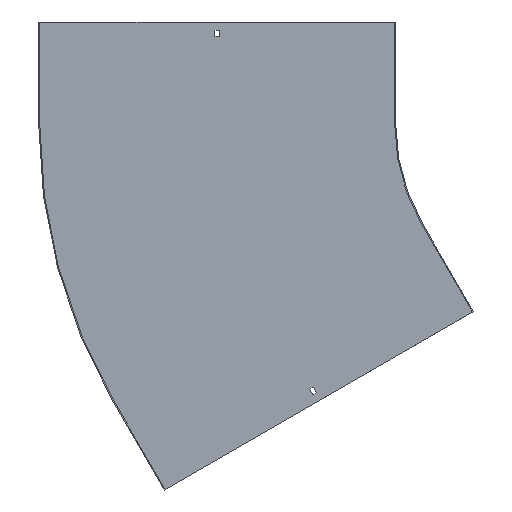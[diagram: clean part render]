
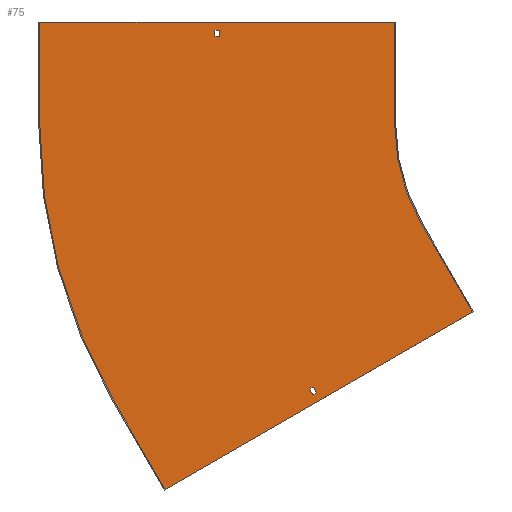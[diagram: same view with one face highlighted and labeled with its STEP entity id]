
A CAD part, front view. The second image highlights one B-rep face of the part: STEP entity #75.
In plain terms, the highlighted planar face has unit normal (0, -1, 0).
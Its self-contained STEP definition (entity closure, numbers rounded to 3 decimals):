
#1 = DIRECTION ( 'NONE',  ( 0., 0., 1. ) ) ;
#12 = EDGE_CURVE ( 'NONE', #556, #187, #514, .T. ) ;
#15 = VERTEX_POINT ( 'NONE', #708 ) ;
#16 = LINE ( 'NONE', #346, #610 ) ;
#24 = LINE ( 'NONE', #99, #457 ) ;
#27 = DIRECTION ( 'NONE',  ( 0., 0., -1. ) ) ;
#33 = CARTESIAN_POINT ( 'NONE',  ( -408.999, -1.5, -385.092 ) ) ;
#36 = DIRECTION ( 'NONE',  ( 0., 1., 0. ) ) ;
#67 = DIRECTION ( 'NONE',  ( 0., 0., -1. ) ) ;
#75 = ADVANCED_FACE ( 'NONE', ( #793, #394, #858 ), #386, .T. ) ;
#83 = CARTESIAN_POINT ( 'NONE',  ( -290., -1.5, 0. ) ) ;
#84 = LINE ( 'NONE', #347, #468 ) ;
#85 = ORIENTED_EDGE ( 'NONE', *, *, #387, .T. ) ;
#86 = ORIENTED_EDGE ( 'NONE', *, *, #801, .F. ) ;
#95 = AXIS2_PLACEMENT_3D ( 'NONE', #195, #660, #67 ) ;
#99 = CARTESIAN_POINT ( 'NONE',  ( 0., -1.5, 129. ) ) ;
#138 = CARTESIAN_POINT ( 'NONE',  ( -546.75, -1.5, 138. ) ) ;
#144 = VERTEX_POINT ( 'NONE', #526 ) ;
#145 = CARTESIAN_POINT ( 'NONE',  ( -553.25, -1.5, 0. ) ) ;
#149 = EDGE_CURVE ( 'NONE', #547, #279, #402, .T. ) ;
#152 = VERTEX_POINT ( 'NONE', #450 ) ;
#155 = CARTESIAN_POINT ( 'NONE',  ( -174.848, -1.5, -274.154 ) ) ;
#159 = EDGE_CURVE ( 'NONE', #335, #409, #596, .T. ) ;
#161 = EDGE_CURVE ( 'NONE', #275, #392, #648, .T. ) ;
#163 = ORIENTED_EDGE ( 'NONE', *, *, #254, .F. ) ;
#179 = VECTOR ( 'NONE', #857, 1000. ) ;
#186 = CARTESIAN_POINT ( 'NONE',  ( -546.75, -1.5, 129. ) ) ;
#187 = VERTEX_POINT ( 'NONE', #186 ) ;
#192 = ORIENTED_EDGE ( 'NONE', *, *, #578, .F. ) ;
#195 = CARTESIAN_POINT ( 'NONE',  ( 0., -1.5, 0. ) ) ;
#213 = EDGE_CURVE ( 'NONE', #409, #657, #807, .T. ) ;
#214 = LINE ( 'NONE', #743, #538 ) ;
#222 = EDGE_LOOP ( 'NONE', ( #388, #770, #426, #239 ) ) ;
#226 = LINE ( 'NONE', #237, #829 ) ;
#237 = CARTESIAN_POINT ( 'NONE',  ( 0., -1.5, 138. ) ) ;
#239 = ORIENTED_EDGE ( 'NONE', *, *, #535, .F. ) ;
#241 = DIRECTION ( 'NONE',  ( -1., 0., 0. ) ) ;
#242 = DIRECTION ( 'NONE',  ( 0., 0., -1. ) ) ;
#254 = EDGE_CURVE ( 'NONE', #575, #335, #742, .T. ) ;
#255 = CARTESIAN_POINT ( 'NONE',  ( -810., -1.5, 0. ) ) ;
#269 = DIRECTION ( 'NONE',  ( 0.866, 0., 0.5 ) ) ;
#273 = DIRECTION ( 'NONE',  ( -0.866, 0., -0.5 ) ) ;
#275 = VERTEX_POINT ( 'NONE', #539 ) ;
#279 = VERTEX_POINT ( 'NONE', #802 ) ;
#283 = ORIENTED_EDGE ( 'NONE', *, *, #498, .F. ) ;
#284 = DIRECTION ( 'NONE',  ( 0., 0., -1. ) ) ;
#286 = EDGE_CURVE ( 'NONE', #279, #275, #84, .T. ) ;
#326 = LINE ( 'NONE', #595, #179 ) ;
#328 = DIRECTION ( 'NONE',  ( 0., 0., 1. ) ) ;
#329 = VECTOR ( 'NONE', #328, 1000. ) ;
#331 = DIRECTION ( 'NONE',  ( 0.5, 0., -0.866 ) ) ;
#335 = VERTEX_POINT ( 'NONE', #558 ) ;
#342 = CARTESIAN_POINT ( 'NONE',  ( 0., -1.5, 0. ) ) ;
#346 = CARTESIAN_POINT ( 'NONE',  ( -290., -1.5, 150. ) ) ;
#347 = CARTESIAN_POINT ( 'NONE',  ( 69., -1.5, -119.512 ) ) ;
#367 = EDGE_LOOP ( 'NONE', ( #849, #283, #86, #645, #678, #446, #163, #192 ) ) ;
#372 = VECTOR ( 'NONE', #242, 1000. ) ;
#386 = PLANE ( 'NONE',  #95 ) ;
#387 = EDGE_CURVE ( 'NONE', #722, #556, #226, .T. ) ;
#388 = ORIENTED_EDGE ( 'NONE', *, *, #161, .F. ) ;
#392 = VERTEX_POINT ( 'NONE', #33 ) ;
#394 = FACE_OUTER_BOUND ( 'NONE', #367, .T. ) ;
#397 = EDGE_CURVE ( 'NONE', #657, #520, #705, .T. ) ;
#399 = CARTESIAN_POINT ( 'NONE',  ( -626.481, -1.5, -534.904 ) ) ;
#402 = LINE ( 'NONE', #862, #688 ) ;
#409 = VERTEX_POINT ( 'NONE', #755 ) ;
#426 = ORIENTED_EDGE ( 'NONE', *, *, #149, .F. ) ;
#432 = EDGE_CURVE ( 'NONE', #187, #144, #24, .T. ) ;
#444 = EDGE_LOOP ( 'NONE', ( #85, #534, #447, #633 ) ) ;
#446 = ORIENTED_EDGE ( 'NONE', *, *, #159, .F. ) ;
#447 = ORIENTED_EDGE ( 'NONE', *, *, #432, .T. ) ;
#450 = CARTESIAN_POINT ( 'NONE',  ( -290., -1.5, 150. ) ) ;
#454 = VECTOR ( 'NONE', #856, 1000. ) ;
#457 = VECTOR ( 'NONE', #241, 1000. ) ;
#459 = CARTESIAN_POINT ( 'NONE',  ( -701.481, -1.5, -405. ) ) ;
#468 = VECTOR ( 'NONE', #269, 1000. ) ;
#476 = DIRECTION ( 'NONE',  ( 0., 0., -1. ) ) ;
#482 = DIRECTION ( 'NONE',  ( 0., -1., 0. ) ) ;
#492 = CARTESIAN_POINT ( 'NONE',  ( -626.481, -1.5, -534.904 ) ) ;
#498 = EDGE_CURVE ( 'NONE', #781, #15, #586, .T. ) ;
#514 = LINE ( 'NONE', #691, #372 ) ;
#520 = VERTEX_POINT ( 'NONE', #459 ) ;
#526 = CARTESIAN_POINT ( 'NONE',  ( -553.25, -1.5, 129. ) ) ;
#527 = VECTOR ( 'NONE', #700, 1000. ) ;
#534 = ORIENTED_EDGE ( 'NONE', *, *, #12, .T. ) ;
#535 = EDGE_CURVE ( 'NONE', #392, #547, #326, .T. ) ;
#536 = DIRECTION ( 'NONE',  ( 1., 0., 0. ) ) ;
#538 = VECTOR ( 'NONE', #536, 1000. ) ;
#539 = CARTESIAN_POINT ( 'NONE',  ( -404.499, -1.5, -392.887 ) ) ;
#547 = VERTEX_POINT ( 'NONE', #581 ) ;
#556 = VERTEX_POINT ( 'NONE', #138 ) ;
#558 = CARTESIAN_POINT ( 'NONE',  ( -251.147, -1.5, -145. ) ) ;
#569 = VECTOR ( 'NONE', #1, 1000. ) ;
#575 = VERTEX_POINT ( 'NONE', #83 ) ;
#578 = EDGE_CURVE ( 'NONE', #152, #575, #16, .T. ) ;
#581 = CARTESIAN_POINT ( 'NONE',  ( -414.629, -1.5, -388.342 ) ) ;
#582 = DIRECTION ( 'NONE',  ( 0.5, 0., -0.866 ) ) ;
#586 = LINE ( 'NONE', #255, #329 ) ;
#595 = CARTESIAN_POINT ( 'NONE',  ( 64.5, -1.5, -111.717 ) ) ;
#596 = LINE ( 'NONE', #725, #623 ) ;
#598 = AXIS2_PLACEMENT_3D ( 'NONE', #634, #36, #27 ) ;
#600 = CARTESIAN_POINT ( 'NONE',  ( -473.499, -1.5, -273.375 ) ) ;
#610 = VECTOR ( 'NONE', #284, 1000. ) ;
#623 = VECTOR ( 'NONE', #331, 1000. ) ;
#633 = ORIENTED_EDGE ( 'NONE', *, *, #659, .T. ) ;
#634 = CARTESIAN_POINT ( 'NONE',  ( 0., -1.5, 0. ) ) ;
#636 = VECTOR ( 'NONE', #273, 1000. ) ;
#645 = ORIENTED_EDGE ( 'NONE', *, *, #397, .F. ) ;
#648 = LINE ( 'NONE', #600, #454 ) ;
#652 = CIRCLE ( 'NONE', #598, 810. ) ;
#657 = VERTEX_POINT ( 'NONE', #399 ) ;
#659 = EDGE_CURVE ( 'NONE', #144, #722, #739, .T. ) ;
#660 = DIRECTION ( 'NONE',  ( 0., -1., 0. ) ) ;
#673 = EDGE_CURVE ( 'NONE', #15, #152, #214, .T. ) ;
#678 = ORIENTED_EDGE ( 'NONE', *, *, #213, .F. ) ;
#682 = CARTESIAN_POINT ( 'NONE',  ( -553.25, -1.5, 138. ) ) ;
#688 = VECTOR ( 'NONE', #582, 1000. ) ;
#689 = DIRECTION ( 'NONE',  ( 1., 0., 0. ) ) ;
#691 = CARTESIAN_POINT ( 'NONE',  ( -546.75, -1.5, 0. ) ) ;
#700 = DIRECTION ( 'NONE',  ( -0.5, 0., 0.866 ) ) ;
#705 = LINE ( 'NONE', #492, #527 ) ;
#708 = CARTESIAN_POINT ( 'NONE',  ( -810., -1.5, 150. ) ) ;
#722 = VERTEX_POINT ( 'NONE', #682 ) ;
#725 = CARTESIAN_POINT ( 'NONE',  ( -251.147, -1.5, -145. ) ) ;
#730 = AXIS2_PLACEMENT_3D ( 'NONE', #342, #482, #476 ) ;
#739 = LINE ( 'NONE', #145, #569 ) ;
#742 = CIRCLE ( 'NONE', #730, 290. ) ;
#743 = CARTESIAN_POINT ( 'NONE',  ( -811.5, -1.5, 150. ) ) ;
#755 = CARTESIAN_POINT ( 'NONE',  ( -176.147, -1.5, -274.904 ) ) ;
#767 = CARTESIAN_POINT ( 'NONE',  ( -810., -1.5, 0. ) ) ;
#770 = ORIENTED_EDGE ( 'NONE', *, *, #286, .F. ) ;
#781 = VERTEX_POINT ( 'NONE', #767 ) ;
#793 = FACE_BOUND ( 'NONE', #222, .T. ) ;
#801 = EDGE_CURVE ( 'NONE', #520, #781, #652, .T. ) ;
#802 = CARTESIAN_POINT ( 'NONE',  ( -410.129, -1.5, -396.137 ) ) ;
#807 = LINE ( 'NONE', #155, #636 ) ;
#829 = VECTOR ( 'NONE', #689, 1000. ) ;
#849 = ORIENTED_EDGE ( 'NONE', *, *, #673, .F. ) ;
#856 = DIRECTION ( 'NONE',  ( -0.5, 0., 0.866 ) ) ;
#857 = DIRECTION ( 'NONE',  ( -0.866, 0., -0.5 ) ) ;
#858 = FACE_BOUND ( 'NONE', #444, .T. ) ;
#862 = CARTESIAN_POINT ( 'NONE',  ( -479.129, -1.5, -276.625 ) ) ;
